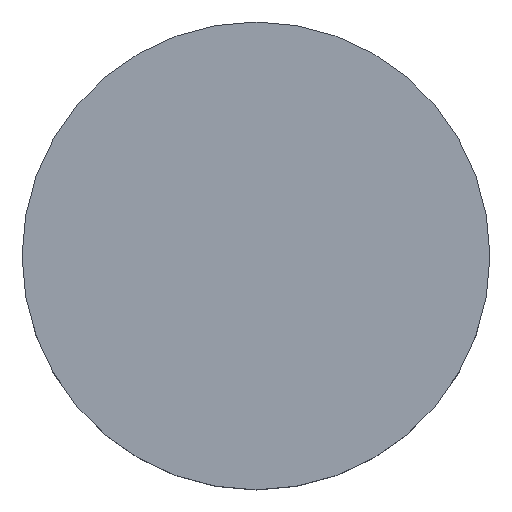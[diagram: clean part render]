
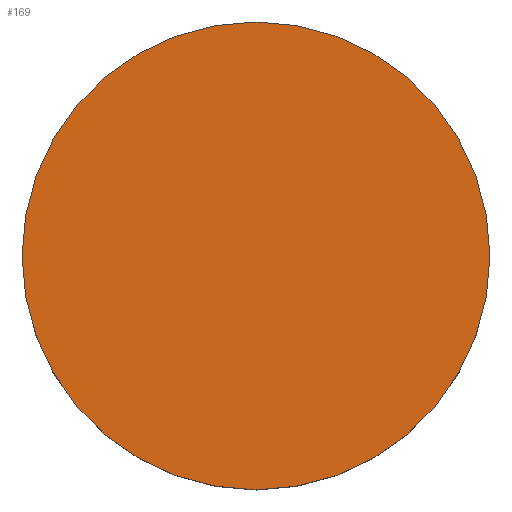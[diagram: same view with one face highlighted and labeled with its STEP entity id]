
A CAD part, top view. The second image highlights one B-rep face of the part: STEP entity #169.
In plain terms, the highlighted planar face has unit normal (0, 0, 1).
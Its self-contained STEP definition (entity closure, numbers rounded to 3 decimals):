
#169=ADVANCED_FACE('',(#209),#200,.T.);
#200=PLANE('',#534);
#209=FACE_OUTER_BOUND('',#233,.T.);
#233=EDGE_LOOP('',(#271,#272));
#271=ORIENTED_EDGE('',*,*,#429,.F.);
#272=ORIENTED_EDGE('',*,*,#430,.F.);
#391=VERTEX_POINT('',#773);
#392=VERTEX_POINT('',#774);
#429=EDGE_CURVE('',#391,#392,#489,.T.);
#430=EDGE_CURVE('',#392,#391,#490,.T.);
#489=CIRCLE('',#532,11.5);
#490=CIRCLE('',#533,11.5);
#532=AXIS2_PLACEMENT_3D('',#772,#607,#608);
#533=AXIS2_PLACEMENT_3D('',#775,#609,#610);
#534=AXIS2_PLACEMENT_3D('',#776,#611,#612);
#607=DIRECTION('',(0.,0.,-1.));
#608=DIRECTION('',(0.,1.,0.));
#609=DIRECTION('',(0.,0.,-1.));
#610=DIRECTION('',(0.,-1.,0.));
#611=DIRECTION('',(0.,0.,1.));
#612=DIRECTION('',(0.,-1.,0.));
#772=CARTESIAN_POINT('',(0.,0.,5.));
#773=CARTESIAN_POINT('',(11.5,0.,5.));
#774=CARTESIAN_POINT('',(-11.5,0.,5.));
#775=CARTESIAN_POINT('',(0.,0.,5.));
#776=CARTESIAN_POINT('',(0.,0.,5.));
